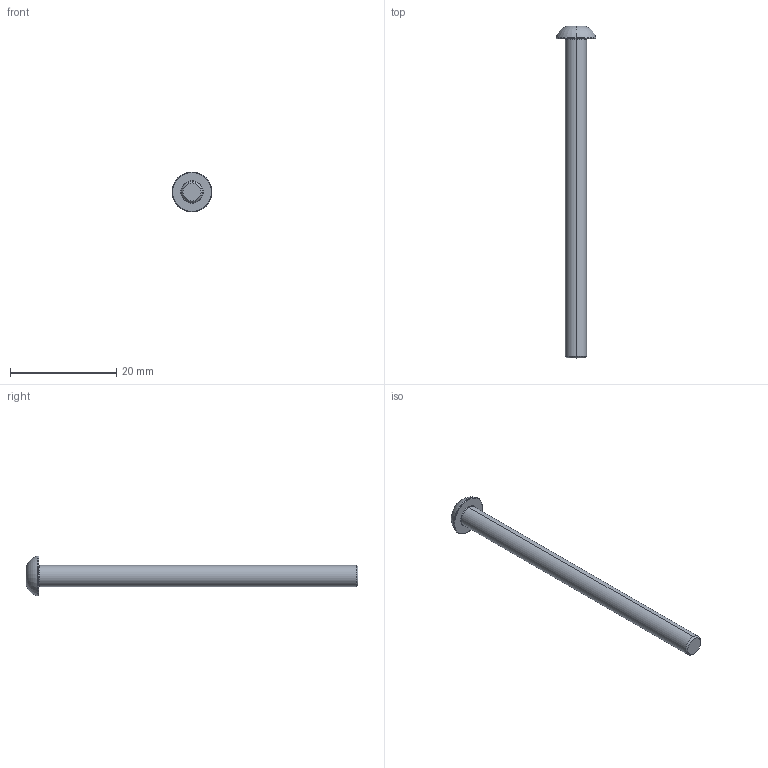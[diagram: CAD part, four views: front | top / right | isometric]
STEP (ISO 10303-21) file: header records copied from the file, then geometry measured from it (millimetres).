
FILE_DESCRIPTION (( 'STEP AP203' ), '1' );
FILE_NAME ('LGDD-TD-M4x60.STEP', '2026-08-14T01:17:08', ( '' ), ( '' ), 'SwSTEP 2.0', 'SolidWorks 2020', '' );
FILE_SCHEMA (( 'CONFIG_CONTROL_DESIGN' ));
Length unit declared in the file: millimetre
Products named in the file (1): LGDD-TD-M4x60
Bounding box: 7.5 x 62.4 x 7.5 mm (x, y, z)
Volume: 820.6 mm3; surface area: 879.7 mm2
Topology: 1 solids, 1 shells, 31 faces, 59 edges, 32 vertices
Faces by surface type: plane 10, cone 9, torus 8, cylinder 4
Entity records: 864 total; most frequent: CARTESIAN_POINT 154, DIRECTION 149, ORIENTED_EDGE 118, AXIS2_PLACEMENT_3D 65, EDGE_CURVE 59, EDGE_LOOP 33, CIRCLE 33, VERTEX_POINT 32
